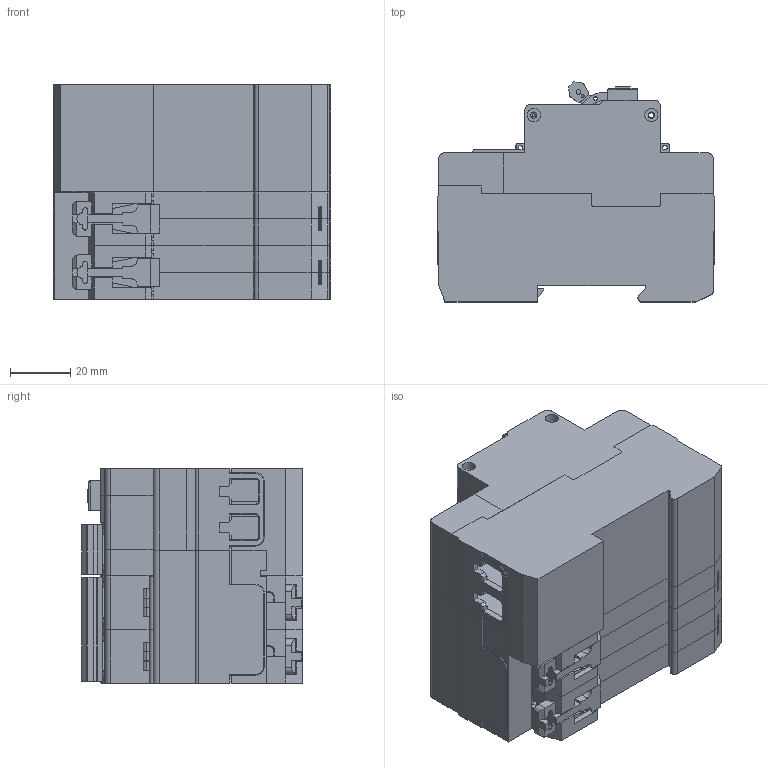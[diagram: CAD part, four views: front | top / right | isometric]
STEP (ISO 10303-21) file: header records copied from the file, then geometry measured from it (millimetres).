
FILE_DESCRIPTION (( 'STEP AP214' ), '1' );
FILE_NAME ('ÂÄ63 2 ïîëþñà äëÿ îçíàêîìëåíèÿ.STEP', '2013-10-18T10:25:19', ( 'admin' ), ( 'KEAZ' ), 'SwSTEP 2.0', 'SolidWorks 2007', '' );
FILE_SCHEMA (( 'AUTOMOTIVE_DESIGN' ));
Length unit declared in the file: millimetre
Products named in the file (15): Íîâ ðó÷ ÃÆÈÊ.753725.009_Ïî óìîë÷àíèþ; êíîïêà_ÃÆÈÊ.753313.004_Ïî óìîë÷àíèþ; çàãëóøêà_ÃÆÈÊ.753313.003_ñ çàìå÷àíèÿìè Êèòàÿ; äëÿ ñáîðîê1_Ïî óìîë÷àíèþ; Ñêîáà_2Ï_ÃÆÈÊ.746442.003_-02 (áåç ñëåäà); ðó÷êà_N_ÃÆÈÊ.753725.004_Ïî óìîë÷àíèþ; ÂÄ63 2 ïîëþñà äëÿ îçíàêîìëåíèÿ; ïðàâ áîêîâèíà äëÿ îçíàêîìëåíèÿ1_01; áîêîâèíà 1_Ïî óìîë÷àíèþ; áîêîâèíà 3_Ïî óìîë÷àíèþ; áîêîâèíà 2_Ïî óìîë÷àíèþ; Êðûøêà 2 ïîëþñà_Ïî óìîë÷àíèþ; Ïåðàäíÿÿ ïàíåëü 2 ïîëþñà_Ïî óìîë÷àíèþ; Êîðïóñ 2 ïîëþñà_Ïî óìîë÷àíèþ; Áîêîâèíà_ëåâàÿ_ÃÆÈÊ.735224.042
Assembly tree (19 placements, depth 2):
  ÂÄ63 2 ïîëþñà äëÿ îçíàêîìëåíèÿ
    äëÿ ñáîðîê1_Ïî óìîë÷àíèþ  x2
    Êîðïóñ 2 ïîëþñà_Ïî óìîë÷àíèþ
    áîêîâèíà 3_Ïî óìîë÷àíèþ
    ðó÷êà_N_ÃÆÈÊ.753725.004_Ïî óìîë÷àíèþ  x2
    Êðûøêà 2 ïîëþñà_Ïî óìîë÷àíèþ
    Ñêîáà_2Ï_ÃÆÈÊ.746442.003_-02 (áåç ñëåäà)
    êíîïêà_ÃÆÈÊ.753313.004_Ïî óìîë÷àíèþ
    Áîêîâèíà_ëåâàÿ_ÃÆÈÊ.735224.042  x2
    Íîâ ðó÷ ÃÆÈÊ.753725.009_Ïî óìîë÷àíèþ
    ïðàâ áîêîâèíà äëÿ îçíàêîìëåíèÿ1_01  x2
    çàãëóøêà_ÃÆÈÊ.753313.003_ñ çàìå÷àíèÿìè Êèòàÿ  x2
    áîêîâèíà 2_Ïî óìîë÷àíèþ
    Ïåðàäíÿÿ ïàíåëü 2 ïîëþñà_Ïî óìîë÷àíèþ
    áîêîâèíà 1_Ïî óìîë÷àíèþ
Bounding box: 92.2 x 73.14 x 71.2 mm (x, y, z)
Volume: 111646.3 mm3; surface area: 149691.2 mm2
Topology: 19 solids, 19 shells, 6031 faces, 16675 edges, 10896 vertices
Faces by surface type: plane 3865, cylinder 1907, cone 158, torus 76, bspline 20, sphere 5
Entity records: 120709 total; most frequent: CARTESIAN_POINT 21848, ORIENTED_EDGE 20226, DIRECTION 19825, EDGE_CURVE 10113, VECTOR 7503, LINE 7503, VERTEX_POINT 6616, AXIS2_PLACEMENT_3D 6161
